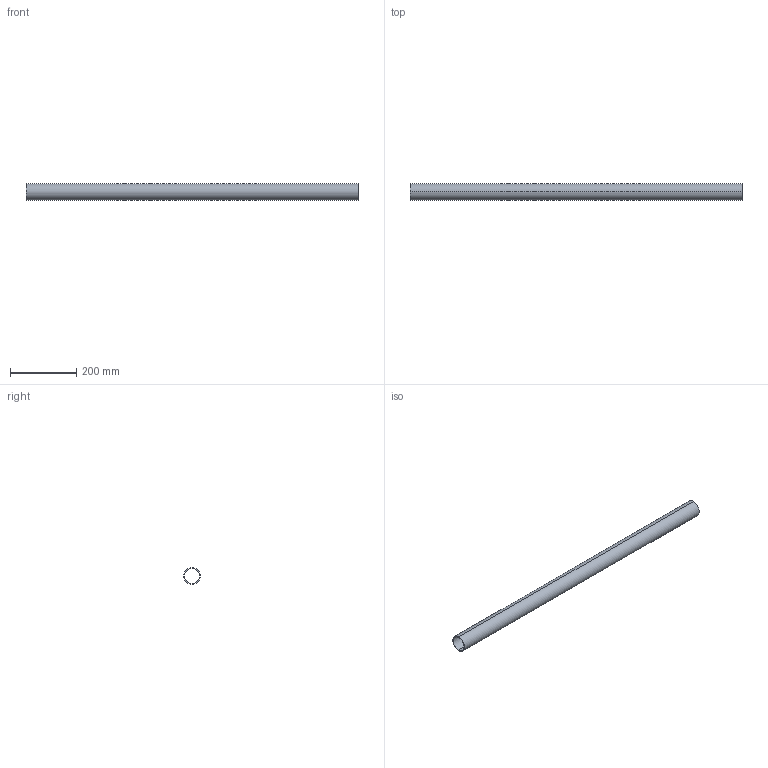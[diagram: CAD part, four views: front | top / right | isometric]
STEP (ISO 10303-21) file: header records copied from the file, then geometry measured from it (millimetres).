
FILE_DESCRIPTION (( 'STEP AP214' ), '1' );
FILE_NAME ('1.8075 Kuljetinrulla AL 50X2 anodisoitu 1000mm.STEP', '2025-09-18T08:45:19', ( '' ), ( '' ), 'SwSTEP 2.0', 'SolidWorks 2025', '' );
FILE_SCHEMA (( 'AUTOMOTIVE_DESIGN' ));
Length unit declared in the file: millimetre
Products named in the file (1): 1.8075 Kuljetinrulla AL 50X2 anodisoitu 1000mm
Bounding box: 1000 x 50 x 50 mm (x, y, z)
Volume: 301592.9 mm3; surface area: 302196.1 mm2
Topology: 1 solids, 1 shells, 6 faces, 12 edges, 8 vertices
Faces by surface type: cylinder 4, plane 2
Entity records: 257 total; most frequent: DIRECTION 34, CARTESIAN_POINT 27, ORIENTED_EDGE 24, AXIS2_PLACEMENT_3D 15, EDGE_CURVE 12, UNCERTAINTY_MEASURE_WITH_UNIT 8, EDGE_LOOP 8, VERTEX_POINT 8
